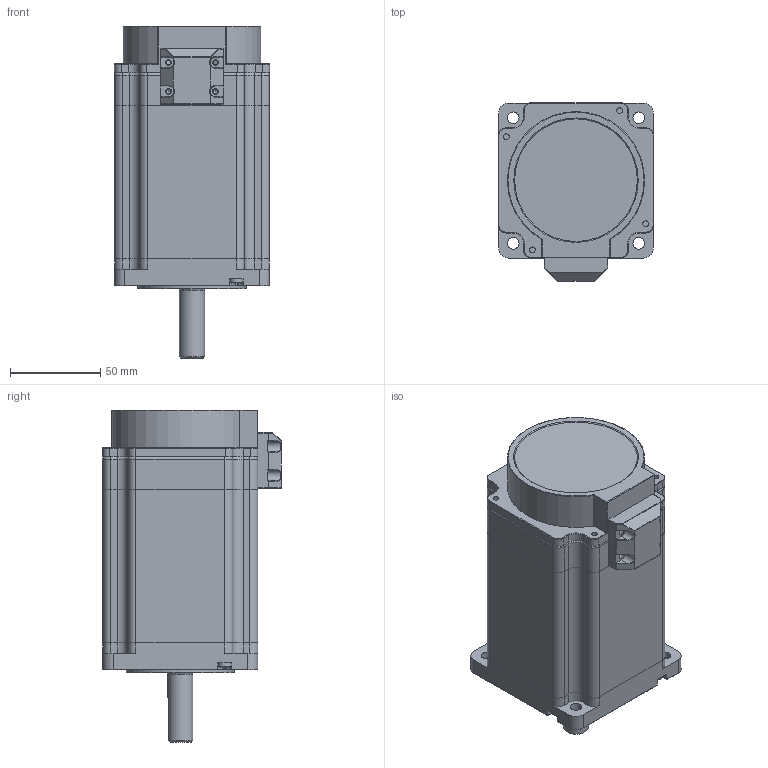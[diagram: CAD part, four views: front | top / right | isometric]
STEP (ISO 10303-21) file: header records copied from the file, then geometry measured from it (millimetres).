
FILE_DESCRIPTION (( 'STEP AP203' ), '1' );
FILE_NAME ('YK286EC118M1.STEP', '2018-11-02T08:08:56', ( '' ), ( '' ), 'SwSTEP 2.0', 'SolidWorks 2014', '' );
FILE_SCHEMA (( 'CONFIG_CONTROL_DESIGN' ));
Length unit declared in the file: millimetre
Products named in the file (18): YK286EC埴倛綴欶; YK286ECXXM1粣郋; YK286ECXXM1萇擢揤啣; 敕遠M4.0蹟佪; YK286ECXXM1ヶ裔; YK286ECXXM1綴裔; YK286EC118M1; YK286ECXXM1隅赽
Assembly tree (10 placements, depth 2):
  YK286EC埴倛綴欶
  敕遠M4.0蹟佪
  YK286ECXXM1粣郋
  YK286ECXXM1ヶ裔
  YK286ECXXM1綴裔
Bounding box: 86 x 99 x 184 mm (x, y, z)
Volume: 628727.6 mm3; surface area: 139352.3 mm2
Topology: 10 solids, 10 shells, 558 faces, 1321 edges, 788 vertices
Faces by surface type: plane 270, cylinder 198, torus 39, sphere 20, bspline 16, cone 15
Full cylindrical faces by diameter (mm): 2.5 x4, 3.2 x8, 3.3 x8, 4 x4, 4.5 x4, 6.5 x4, 7.2 x4, 14 x1, 15 x1, 16 x2, 35 x2, 55.96 x1, 60 x1, 78 x1, 82 x1
Entity records: 15420 total; most frequent: CARTESIAN_POINT 2808, DIRECTION 2380, ORIENTED_EDGE 2164, EDGE_CURVE 1082, AXIS2_PLACEMENT_3D 896, VERTEX_POINT 696, EDGE_LOOP 594, LINE 588
